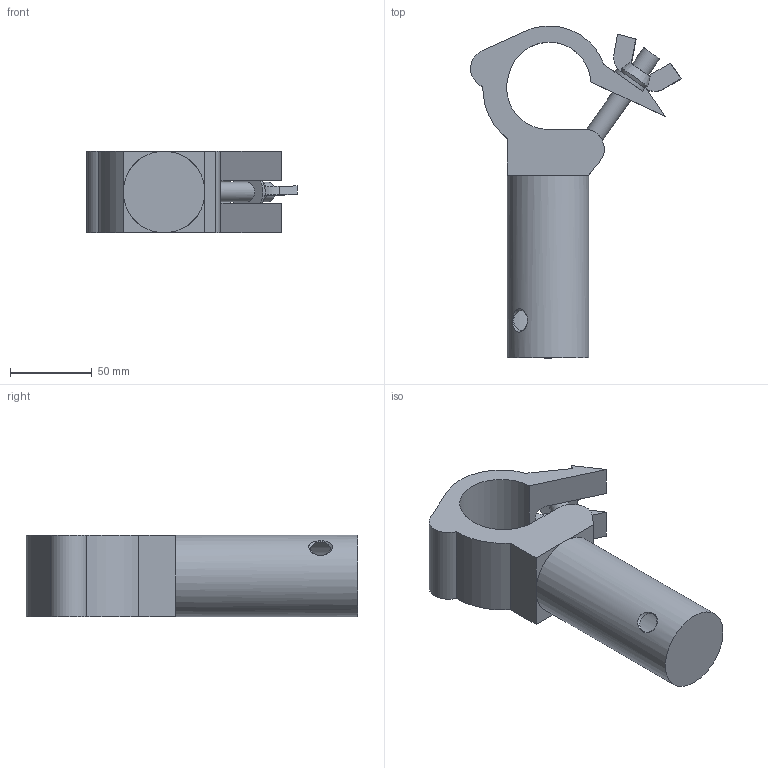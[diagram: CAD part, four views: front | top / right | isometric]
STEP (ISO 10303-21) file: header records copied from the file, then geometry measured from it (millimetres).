
FILE_DESCRIPTION(/* description */ (''),/* implementation_level */ '2;1');
FILE_NAME(/* name */ 'K:\Techniek\CAD Tekeningen\Inventor transport\Cas\Cad Blokken\Catalogus\CS1-DCxx\CS1-DC14.stp',/* time_stamp */ '2021-06-22T09:46:46+02:00',/* author */ ('Cas'),/* organization */ (''),/* preprocessor_version */ 'ST-DEVELOPER v18',/* originating_system */ 'Autodesk Inventor 2020',/* authorisation */ '');
FILE_SCHEMA (('AUTOMOTIVE_DESIGN { 1 0 10303 214 3 1 1 }'));
Length unit declared in the file: millimetre
Products named in the file (1): CS1-DC14
Bounding box: 129.13 x 203.33 x 50 mm (x, y, z)
Volume: 406583.3 mm3; surface area: 55690.4 mm2
Topology: 1 solids, 1 shells, 58 faces, 159 edges, 102 vertices
Faces by surface type: plane 37, cylinder 15, cone 6
Full cylindrical faces by diameter (mm): 12 x2, 50 x1
Entity records: 2095 total; most frequent: CARTESIAN_POINT 452, ORIENTED_EDGE 326, DIRECTION 307, EDGE_CURVE 163, AXIS2_PLACEMENT_3D 103, VERTEX_POINT 102, LINE 101, VECTOR 101
